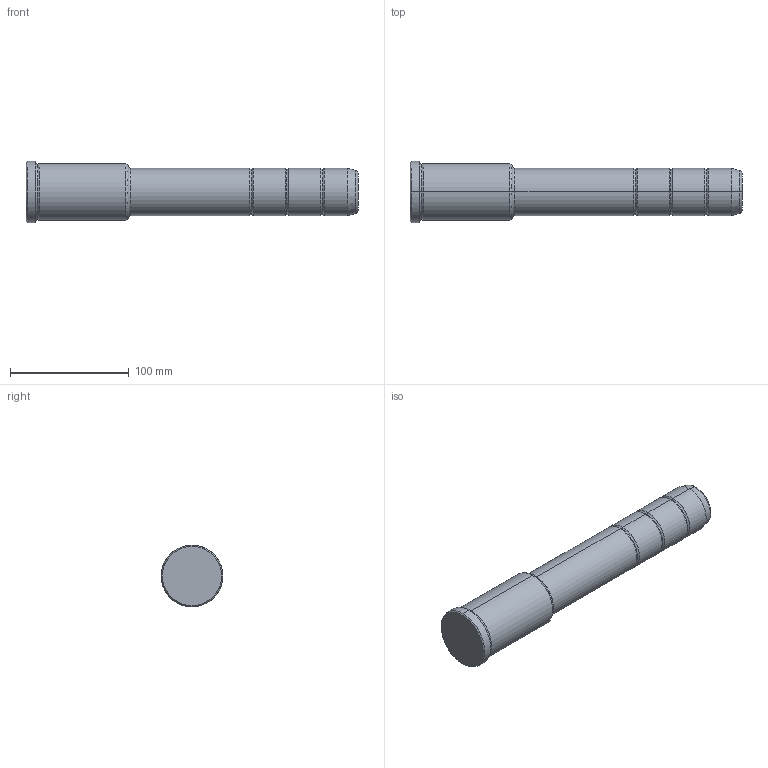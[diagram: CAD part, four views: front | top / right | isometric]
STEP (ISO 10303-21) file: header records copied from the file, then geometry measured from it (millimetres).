
FILE_DESCRIPTION(('CATIA V5 STEP Exchange'),'2;1');
FILE_NAME('C:\Users\Utente\Desktop\IO LAVORO\3D X SITO CF\X SITO\PLASTICA\351\351-40X86X280.stp','2021-10-07T14:13:20+00:00',('none'),('none'),'CATIA Version 5 Release 20 GA (IN-10)','CATIA V5 STEP AP203','none');
FILE_SCHEMA(('CONFIG_CONTROL_DESIGN'));
Length unit declared in the file: millimetre
Products named in the file (1): 351-40X86X280
Bounding box: 280 x 52 x 52 mm (x, y, z)
Volume: 399472.2 mm3; surface area: 41230.8 mm2
Topology: 1 solids, 1 shells, 42 faces, 118 edges, 80 vertices
Faces by surface type: torus 20, cylinder 12, cone 6, plane 4
Entity records: 1472 total; most frequent: CARTESIAN_POINT 353, ORIENTED_EDGE 236, DIRECTION 194, AXIS2_PLACEMENT_3D 135, EDGE_CURVE 118, CIRCLE 92, VERTEX_POINT 80, EDGE_LOOP 44
